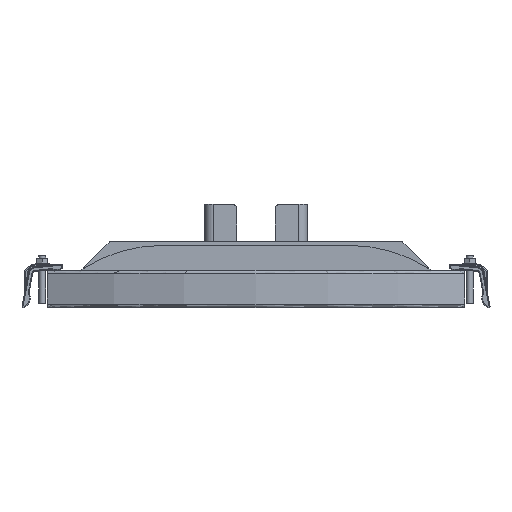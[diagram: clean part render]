
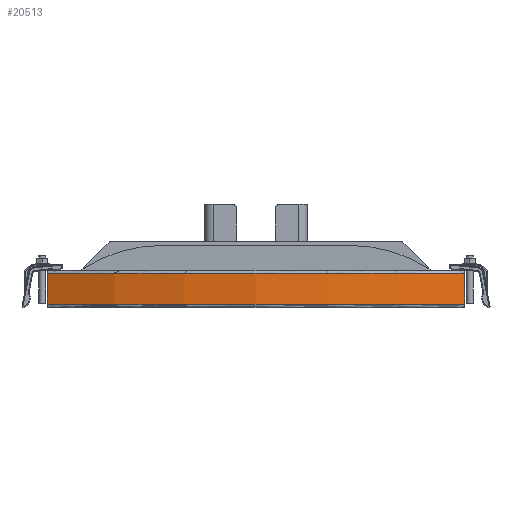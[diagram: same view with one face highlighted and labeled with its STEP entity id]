
A CAD part, front view. The second image highlights one B-rep face of the part: STEP entity #20513.
In plain terms, the highlighted cylindrical face has radius 552 mm (diameter 1104 mm), a partial arc.
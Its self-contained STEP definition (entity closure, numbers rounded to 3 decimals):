
#347 = DIRECTION ( 'NONE',  ( 0., 0., -1. ) ) ;
#567 = EDGE_CURVE ( 'NONE', #28287, #55069, #36799, .T. ) ;
#899 = DIRECTION ( 'NONE',  ( 0., 0., -1. ) ) ;
#4090 = EDGE_CURVE ( 'NONE', #55069, #57944, #36554, .T. ) ;
#5276 = ORIENTED_EDGE ( 'NONE', *, *, #44705, .F. ) ;
#5688 = CARTESIAN_POINT ( 'NONE',  ( 245.333, 45.515, 40. ) ) ;
#7560 = EDGE_CURVE ( 'NONE', #13403, #57944, #46626, .T. ) ;
#8726 = ORIENTED_EDGE ( 'NONE', *, *, #4090, .T. ) ;
#13323 = DIRECTION ( 'NONE',  ( 0., 0., -1. ) ) ;
#13403 = VERTEX_POINT ( 'NONE', #55648 ) ;
#13527 = EDGE_LOOP ( 'NONE', ( #5276, #36227, #8726, #27757 ) ) ;
#16716 = FACE_OUTER_BOUND ( 'NONE', #13527, .T. ) ;
#18803 = DIRECTION ( 'NONE',  ( 0., 0., -1. ) ) ;
#20513 = ADVANCED_FACE ( 'NONE', ( #16716 ), #54081, .T. ) ;
#24257 = CARTESIAN_POINT ( 'NONE',  ( 0., 540., 40. ) ) ;
#24857 = CARTESIAN_POINT ( 'NONE',  ( -245.333, 45.515, 40. ) ) ;
#27757 = ORIENTED_EDGE ( 'NONE', *, *, #7560, .F. ) ;
#28287 = VERTEX_POINT ( 'NONE', #5688 ) ;
#29149 = DIRECTION ( 'NONE',  ( -1., 0., 0. ) ) ;
#29915 = AXIS2_PLACEMENT_3D ( 'NONE', #24257, #899, #29149 ) ;
#31387 = VECTOR ( 'NONE', #13323, 1000. ) ;
#34312 = DIRECTION ( 'NONE',  ( 0., 0., -1. ) ) ;
#36227 = ORIENTED_EDGE ( 'NONE', *, *, #567, .T. ) ;
#36554 = LINE ( 'NONE', #49770, #31387 ) ;
#36799 = CIRCLE ( 'NONE', #29915, 552. ) ;
#37189 = DIRECTION ( 'NONE',  ( -1., 0., 0. ) ) ;
#37197 = CARTESIAN_POINT ( 'NONE',  ( 0., 540., 0. ) ) ;
#37491 = CARTESIAN_POINT ( 'NONE',  ( 0., 540., 4. ) ) ;
#44372 = AXIS2_PLACEMENT_3D ( 'NONE', #37197, #347, #52217 ) ;
#44705 = EDGE_CURVE ( 'NONE', #28287, #13403, #48167, .T. ) ;
#46626 = CIRCLE ( 'NONE', #50560, 552. ) ;
#48167 = LINE ( 'NONE', #58293, #51249 ) ;
#49770 = CARTESIAN_POINT ( 'NONE',  ( -245.333, 45.515, 40. ) ) ;
#50560 = AXIS2_PLACEMENT_3D ( 'NONE', #37491, #18803, #37189 ) ;
#51249 = VECTOR ( 'NONE', #34312, 1000. ) ;
#52217 = DIRECTION ( 'NONE',  ( -1., 0., 0. ) ) ;
#54081 = CYLINDRICAL_SURFACE ( 'NONE', #44372, 552. ) ;
#54939 = CARTESIAN_POINT ( 'NONE',  ( -245.333, 45.515, 4. ) ) ;
#55069 = VERTEX_POINT ( 'NONE', #24857 ) ;
#55648 = CARTESIAN_POINT ( 'NONE',  ( 245.333, 45.515, 4. ) ) ;
#57944 = VERTEX_POINT ( 'NONE', #54939 ) ;
#58293 = CARTESIAN_POINT ( 'NONE',  ( 245.333, 45.515, 40. ) ) ;
